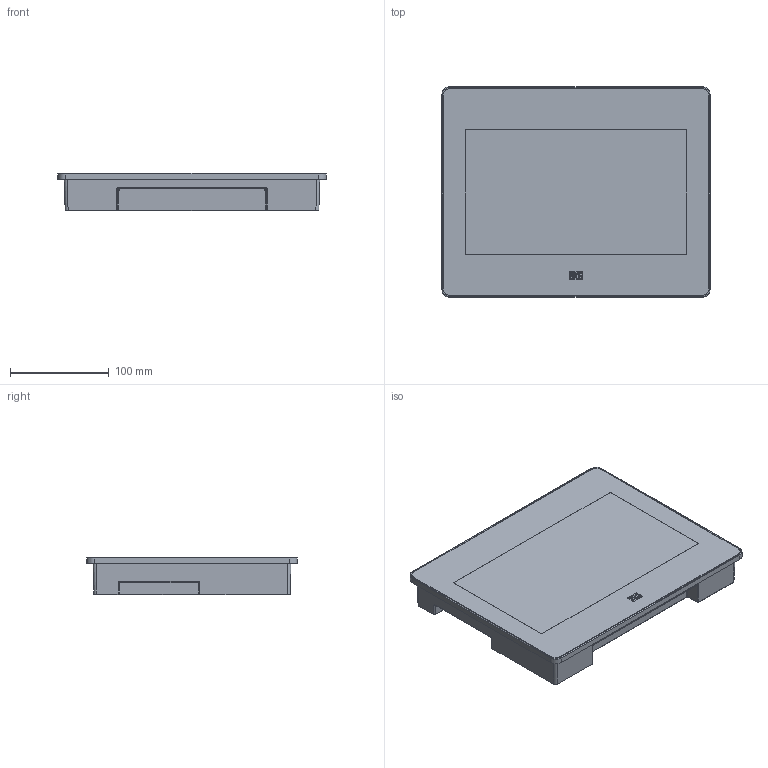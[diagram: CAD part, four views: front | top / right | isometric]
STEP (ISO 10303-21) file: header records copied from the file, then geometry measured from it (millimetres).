
FILE_DESCRIPTION (( 'STEP AP203' ), '1' );
FILE_NAME ('STP - cMT2178X2.STEP', '2022-07-15T15:57:23', ( '' ), ( '' ), 'SwSTEP 2.0', 'SolidWorks 2018', '' );
FILE_SCHEMA (( 'CONFIG_CONTROL_DESIGN' ));
Length unit declared in the file: millimetre
Products named in the file (1): STP - cMT2178X2
Bounding box: 271 x 213 x 38 mm (x, y, z)
Volume: 1850460.1 mm3; surface area: 151902.8 mm2
Topology: 1 solids, 1 shells, 156 faces, 370 edges, 228 vertices
Faces by surface type: plane 76, cylinder 42, cone 16, bspline 12, sphere 6, torus 4
Entity records: 4766 total; most frequent: CARTESIAN_POINT 1172, ORIENTED_EDGE 740, DIRECTION 720, EDGE_CURVE 370, VECTOR 244, LINE 244, AXIS2_PLACEMENT_3D 238, VERTEX_POINT 228
